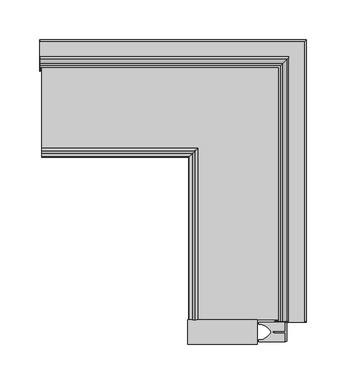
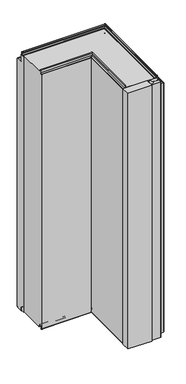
"""IFC4 building model written with IfcOpenShell, lengths in millimetres: plate geometry, Угловой модуль Fronttop : Угловой модуль Fronttop 150/1000."""

from ifc_helpers import new_model, si_unit, point, frame, frame_2d, origin, origin_with_axes, place, context, project, spatial, polyline, circle_curve, ellipse_curve, trimmed, segment, composite_curve, outline, extrude, source, transform, mapped, element, save
from ifc_brep_helpers import plane_surface, cylinder_surface, revolved_surface, advanced_brep


def plate_d7af983f(model_context):
    return source(origin(), model_context, "Body", "SolidModel", [
        extrude(outline(polyline([(150.0, -208.4948846), (150.0, -231.5051154), (148.5, -231.5051154), (148.5, -220.6502496), (134.0759655, -220.6502496), (134.0759655, -219.35), (148.5, -219.35), (148.5, -208.4948846), (150.0, -208.4948846)])), origin_with_axes(), (0.0, 0.0, 1.0), 1000.0),
        extrude(outline(composite_curve([segment(polyline([(148.5, -207.4998455), (148.5, -219.25), (132.5, -219.25), (132.5, -220.75), (148.5, -220.75), (148.5, -232.5001545), (115.0, -232.5001545), (115.0, -229.75), (117.5, -229.75)]), True, "CONTINUOUS"), segment(trimmed(circle_curve(frame_2d((114.3183984, -211.9661979)), 18.0661619), [point((117.5, -229.75))], [point((130.5, -220.0))], True, "CARTESIAN"), True, "CONTINUOUS"), segment(trimmed(circle_curve(frame_2d((114.3183984, -228.0338021)), 18.0661619), [point((130.5, -220.0))], [point((117.5, -210.25))], True, "CARTESIAN"), True, "CONTINUOUS"), segment(polyline([(117.5, -210.25), (115.0, -210.25), (115.0, -207.4998455), (148.5, -207.4998455)]), True, "CONTINUOUS")], self_intersect=False)), origin_with_axes(), (0.0, 0.0, 1.0), 1000.0),
        extrude(outline(polyline([(25.0, -235.5), (25.0, -204.5), (113.0, -204.5), (113.0, -235.5), (25.0, -235.5)])), origin_with_axes(), (0.0, 0.0, 1.0), 1000.0),
        advanced_brep(
        [(-161.5, 124.0, 1008.0), (-161.5, 121.0, 1008.0), (-161.5, 121.0, 1004.0), (-161.5, 117.0, 1000.0), (-161.5, 115.0, 1000.0), (-161.5, 115.0, 1001.0), (-161.5, 117.0, 1001.0), (-161.5, 120.0, 1004.0), (-161.5, 120.0, 1008.0), (-161.5, 125.0, 1008.0), (-161.5, 125.0, 1000.0), (-161.5, 124.0, 1000.0), (-161.5, 115.0, 2.0), (140.0, 115.0, 2.0), (140.0, 115.0, 3.0), (-161.5, 115.0, 3.0), (140.0, -206.5, 3.0), (142.0, -206.5, 3.0), (142.0, 117.0, 3.0), (-161.5, 117.0, 3.0), (143.0, 118.0, 4.0), (-161.5, 118.0, 4.0), (143.0, 118.0, 8.0), (-161.5, 118.0, 8.0), (152.0, 127.0, 8.0), (-161.5, 127.0, 8.0), (152.0, 127.0, 0.0), (-161.5, 127.0, 0.0), (154.0, 129.0, -2.0), (-161.5, 129.0, -2.0), (154.0, -206.5, -2.0), (172.0, -206.5, -2.0), (172.0, 147.0, -2.0), (-161.5, 147.0, -2.0), (174.0, 149.0, 0.0), (-161.5, 149.0, 0.0), (174.0, 149.0, 969.0), (-161.5, 149.0, 969.0), (172.0, 147.0, 971.0), (-161.5, 147.0, 971.0), (172.0, -206.5, 971.0), (153.0, -206.5, 971.0), (153.0, 128.0, 971.0), (-161.5, 128.0, 971.0), (149.0, 124.0, 975.0), (-161.5, 124.0, 975.0), (149.0, 124.0, 1008.0), (146.0, 121.0, 1008.0), (146.0, 121.0, 1004.0), (142.0, 117.0, 1000.0), (142.0, -206.5, 1000.0), (140.0, -206.5, 1000.0), (140.0, 115.0, 1000.0), (140.0, 115.0, 1001.0), (140.0, -206.5, 1001.0), (142.0, -206.5, 1001.0), (142.0, 117.0, 1001.0), (145.0, 120.0, 1004.0), (145.0, 120.0, 1008.0), (150.0, 125.0, 1008.0), (150.0, 125.0, 975.0), (-161.5, 125.0, 975.0), (-162.5, 125.0, 975.0), (-162.5, 125.0, 1000.0), (153.0, 128.0, 972.0), (-161.5, 128.0, 972.0), (153.0, -206.5, 972.0), (153.0, -207.5, 972.0), (172.0, -207.5, 972.0), (172.0, -206.5, 972.0), (172.0, 147.0, 972.0), (-161.5, 147.0, 972.0), (-162.5, 147.0, 972.0), (-162.5, 128.0, 972.0), (175.0, 150.0, 969.0), (-161.5, 150.0, 969.0), (175.0, 150.0, 0.0), (-161.5, 150.0, 0.0), (-162.5, 150.0, 0.0), (-162.5, 150.0, 969.0), (172.0, 147.0, -3.0), (-161.5, 147.0, -3.0), (172.0, -206.5, -3.0), (172.0, -207.5, -3.0), (150.0, -207.5, -3.0), (150.0, -206.5, -3.0), (154.0, -206.5, -3.0), (154.0, 129.0, -3.0), (-161.5, 129.0, -3.0), (-161.5, 125.0, -3.0), (-162.5, 125.0, -3.0), (-162.5, 147.0, -3.0), (151.0, 126.0, 0.0), (-161.5, 126.0, 0.0), (151.0, 126.0, 8.0), (-161.5, 126.0, 8.0), (144.0, 119.0, 8.0), (-161.5, 119.0, 8.0), (144.0, 119.0, 4.0), (-161.5, 119.0, 4.0), (142.0, 117.0, 2.0), (-161.5, 117.0, 2.0), (142.0, -206.5, 2.0), (140.0, -206.5, 2.0), (146.0, -206.5, 1004.0), (146.0, -206.5, 1008.0), (149.0, -206.5, 1008.0), (149.0, -206.5, 1000.0), (150.0, -206.5, 1000.0), (150.0, -206.5, 1008.0), (145.0, -206.5, 1008.0), (145.0, -206.5, 1004.0), (143.0, -206.5, 4.0), (143.0, -206.5, 8.0), (152.0, -206.5, 8.0), (152.0, -206.5, 0.0), (174.0, -206.5, 0.0), (174.0, -206.5, 969.0), (149.0, -206.5, 975.0), (150.0, -207.5, 1000.0), (150.0, -207.5, 975.0), (150.0, -206.5, 975.0), (175.0, -206.5, 969.0), (175.0, -207.5, 969.0), (175.0, -207.5, 0.0), (175.0, -206.5, 0.0), (151.0, -206.5, 0.0), (151.0, -206.5, 8.0), (144.0, -206.5, 8.0), (144.0, -206.5, 4.0), (-161.5, 110.0, 1000.0), (-161.5, 110.0, 0.0), (-161.5, 125.0, 0.0), (-162.5, 125.0, 0.0), (-162.5, 110.0, 0.0), (-162.5, 110.0, 1000.0), (135.0, -206.5, 0.0), (135.0, -206.5, 1000.0), (150.0, -206.5, 0.0), (135.0, -207.5, 0.0), (150.0, -207.5, 0.0), (135.0, -207.5, 1000.0)],
        [
            (0, 1, circle_curve(frame((-161.5, 122.5, 1008.0), z_axis=(1.0, 0.0, 0.0), x_axis=(0.0, -1.0, 0.0)), 1.5)),
            (1, 2),
            (2, 3, circle_curve(frame((-161.5, 117.0, 1004.0), z_axis=(-1.0, 0.0, 0.0), x_axis=(0.0, -1.0, 0.0)), 4.0)),
            (3, 4),
            (4, 5),
            (5, 6),
            (6, 7, circle_curve(frame((-161.5, 117.0, 1004.0), z_axis=(1.0, 0.0, 0.0), x_axis=(0.0, -1.0, 0.0)), 3.0)),
            (7, 8),
            (8, 9, circle_curve(frame((-161.5, 122.5, 1008.0), z_axis=(-1.0, 0.0, 0.0), x_axis=(0.0, -1.0, 0.0)), 2.5)),
            (9, 10),
            (10, 11),
            (11, 0),
            (12, 13),
            (13, 14),
            (14, 15),
            (15, 12),
            (14, 16),
            (16, 17),
            (17, 18),
            (18, 19),
            (19, 15),
            (18, 20, ellipse_curve(frame((142.0, 117.0, 4.0), z_axis=(0.7071067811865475, -0.7071067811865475, 0.0), x_axis=(0.7071067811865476, 0.7071067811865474, 0.0)), 1.4142136, 1.0)),
            (20, 21),
            (21, 19, circle_curve(frame((-161.5, 117.0, 4.0), z_axis=(-1.0, 0.0, 0.0), x_axis=(0.0, -1.0, 0.0)), 1.0)),
            (20, 22),
            (22, 23),
            (23, 21),
            (22, 24, ellipse_curve(frame((147.5, 122.5, 8.0), z_axis=(-0.7071067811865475, 0.7071067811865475, 0.0), x_axis=(-0.7071067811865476, -0.7071067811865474, 0.0)), 6.363961, 4.5)),
            (24, 25),
            (25, 23, circle_curve(frame((-161.5, 122.5, 8.0), z_axis=(1.0, 0.0, 0.0), x_axis=(0.0, -1.0, 0.0)), 4.5)),
            (24, 26),
            (26, 27),
            (27, 25),
            (26, 28, ellipse_curve(frame((154.0, 129.0, 0.0), z_axis=(0.7071067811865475, -0.7071067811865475, 0.0), x_axis=(0.7071067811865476, 0.7071067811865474, 0.0)), 2.8284271, 2.0)),
            (28, 29),
            (29, 27, circle_curve(frame((-161.5, 129.0, 0.0), z_axis=(-1.0, 0.0, 0.0), x_axis=(0.0, -1.0, 0.0)), 2.0)),
            (28, 30),
            (30, 31),
            (31, 32),
            (32, 33),
            (33, 29),
            (32, 34, ellipse_curve(frame((172.0, 147.0, 0.0), z_axis=(0.7071067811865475, -0.7071067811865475, 0.0), x_axis=(0.7071067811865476, 0.7071067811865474, 0.0)), 2.8284271, 2.0)),
            (34, 35),
            (35, 33, circle_curve(frame((-161.5, 147.0, 0.0), z_axis=(-1.0, 0.0, 0.0), x_axis=(0.0, -1.0, 0.0)), 2.0)),
            (34, 36),
            (36, 37),
            (37, 35),
            (36, 38, ellipse_curve(frame((172.0, 147.0, 969.0), z_axis=(0.7071067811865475, -0.7071067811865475, 0.0), x_axis=(0.7071067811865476, 0.7071067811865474, 0.0)), 2.8284271, 2.0)),
            (38, 39),
            (39, 37, circle_curve(frame((-161.5, 147.0, 969.0), z_axis=(-1.0, 0.0, 0.0), x_axis=(0.0, -1.0, 0.0)), 2.0)),
            (38, 40),
            (40, 41),
            (41, 42),
            (42, 43),
            (43, 39),
            (42, 44, ellipse_curve(frame((153.0, 128.0, 975.0), z_axis=(-0.7071067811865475, 0.7071067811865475, 0.0), x_axis=(-0.7071067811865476, -0.7071067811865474, 0.0)), 5.6568542, 4.0)),
            (44, 45),
            (45, 43, circle_curve(frame((-161.5, 128.0, 975.0), z_axis=(1.0, 0.0, 0.0), x_axis=(0.0, -1.0, 0.0)), 4.0)),
            (44, 46),
            (46, 0),
            (11, 45),
            (46, 47, ellipse_curve(frame((147.5, 122.5, 1008.0), z_axis=(0.7071067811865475, -0.7071067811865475, 0.0), x_axis=(0.7071067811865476, 0.7071067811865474, 0.0)), 2.1213203, 1.5)),
            (47, 1),
            (47, 48),
            (48, 2),
            (48, 49, ellipse_curve(frame((142.0, 117.0, 1004.0), z_axis=(-0.7071067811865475, 0.7071067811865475, 0.0), x_axis=(-0.7071067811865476, -0.7071067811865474, 0.0)), 5.6568542, 4.0)),
            (49, 3),
            (49, 50),
            (50, 51),
            (51, 52),
            (52, 4),
            (4, 3),
            (52, 53),
            (53, 5),
            (53, 54),
            (54, 55),
            (55, 56),
            (56, 6),
            (56, 57, ellipse_curve(frame((142.0, 117.0, 1004.0), z_axis=(0.7071067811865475, -0.7071067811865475, 0.0), x_axis=(0.7071067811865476, 0.7071067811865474, 0.0)), 4.2426407, 3.0)),
            (57, 7),
            (57, 58),
            (58, 8),
            (58, 59, ellipse_curve(frame((147.5, 122.5, 1008.0), z_axis=(-0.7071067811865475, 0.7071067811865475, 0.0), x_axis=(-0.7071067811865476, -0.7071067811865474, 0.0)), 3.5355339, 2.5)),
            (59, 9),
            (59, 60),
            (60, 61),
            (61, 62),
            (62, 63),
            (63, 10),
            (60, 64, ellipse_curve(frame((153.0, 128.0, 975.0), z_axis=(0.7071067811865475, -0.7071067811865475, 0.0), x_axis=(0.7071067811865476, 0.7071067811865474, 0.0)), 4.2426407, 3.0)),
            (64, 65),
            (65, 61, circle_curve(frame((-161.5, 128.0, 975.0), z_axis=(-1.0, 0.0, 0.0), x_axis=(0.0, -1.0, 0.0)), 3.0)),
            (64, 66),
            (66, 67),
            (67, 68),
            (68, 69),
            (69, 70),
            (70, 71),
            (71, 72),
            (72, 73),
            (73, 65),
            (70, 74, ellipse_curve(frame((172.0, 147.0, 969.0), z_axis=(-0.7071067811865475, 0.7071067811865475, 0.0), x_axis=(-0.7071067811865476, -0.7071067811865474, 0.0)), 4.2426407, 3.0)),
            (74, 75),
            (75, 71, circle_curve(frame((-161.5, 147.0, 969.0), z_axis=(1.0, 0.0, 0.0), x_axis=(0.0, -1.0, 0.0)), 3.0)),
            (74, 76),
            (76, 77),
            (77, 78),
            (78, 79),
            (79, 75),
            (76, 80, ellipse_curve(frame((172.0, 147.0, 0.0), z_axis=(-0.7071067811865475, 0.7071067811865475, 0.0), x_axis=(-0.7071067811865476, -0.7071067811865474, 0.0)), 4.2426407, 3.0)),
            (80, 81),
            (81, 77, circle_curve(frame((-161.5, 147.0, 0.0), z_axis=(1.0, 0.0, 0.0), x_axis=(0.0, -1.0, 0.0)), 3.0)),
            (80, 82),
            (82, 83),
            (83, 84),
            (84, 85),
            (85, 86),
            (86, 87),
            (87, 88),
            (88, 89),
            (89, 90),
            (90, 91),
            (91, 81),
            (87, 92, ellipse_curve(frame((154.0, 129.0, 0.0), z_axis=(-0.7071067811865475, 0.7071067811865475, 0.0), x_axis=(-0.7071067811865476, -0.7071067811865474, 0.0)), 4.2426407, 3.0)),
            (92, 93),
            (93, 88, circle_curve(frame((-161.5, 129.0, 0.0), z_axis=(1.0, 0.0, 0.0), x_axis=(0.0, -1.0, 0.0)), 3.0)),
            (92, 94),
            (94, 95),
            (95, 93),
            (94, 96, ellipse_curve(frame((147.5, 122.5, 8.0), z_axis=(0.7071067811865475, -0.7071067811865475, 0.0), x_axis=(0.7071067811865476, 0.7071067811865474, 0.0)), 4.9497475, 3.5)),
            (96, 97),
            (97, 95, circle_curve(frame((-161.5, 122.5, 8.0), z_axis=(-1.0, 0.0, 0.0), x_axis=(0.0, -1.0, 0.0)), 3.5)),
            (96, 98),
            (98, 99),
            (99, 97),
            (98, 100, ellipse_curve(frame((142.0, 117.0, 4.0), z_axis=(-0.7071067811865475, 0.7071067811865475, 0.0), x_axis=(-0.7071067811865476, -0.7071067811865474, 0.0)), 2.8284271, 2.0)),
            (100, 101),
            (101, 99, circle_curve(frame((-161.5, 117.0, 4.0), z_axis=(1.0, 0.0, 0.0), x_axis=(0.0, -1.0, 0.0)), 2.0)),
            (12, 101),
            (100, 102),
            (102, 103),
            (103, 13),
            (54, 51),
            (51, 50),
            (50, 104, circle_curve(frame((142.0, -206.5, 1004.0), z_axis=(0.0, -1.0, 0.0), x_axis=(-1.0, 0.0, 0.0)), 4.0)),
            (104, 105),
            (105, 106, circle_curve(frame((147.5, -206.5, 1008.0), z_axis=(0.0, 1.0, 0.0), x_axis=(-1.0, 0.0, 0.0)), 1.5)),
            (106, 107),
            (107, 108),
            (108, 109),
            (109, 110, circle_curve(frame((147.5, -206.5, 1008.0), z_axis=(0.0, -1.0, 0.0), x_axis=(-1.0, 0.0, 0.0)), 2.5)),
            (110, 111),
            (111, 55, circle_curve(frame((142.0, -206.5, 1004.0), z_axis=(0.0, 1.0, 0.0), x_axis=(-1.0, 0.0, 0.0)), 3.0)),
            (103, 16),
            (17, 112, circle_curve(frame((142.0, -206.5, 4.0), z_axis=(0.0, -1.0, 0.0), x_axis=(-1.0, 0.0, 0.0)), 1.0)),
            (112, 20),
            (112, 113),
            (113, 22),
            (113, 114, circle_curve(frame((147.5, -206.5, 8.0), z_axis=(0.0, 1.0, 0.0), x_axis=(-1.0, 0.0, 0.0)), 4.5)),
            (114, 24),
            (114, 115),
            (115, 26),
            (115, 30, circle_curve(frame((154.0, -206.5, 0.0), z_axis=(0.0, -1.0, 0.0), x_axis=(-1.0, 0.0, 0.0)), 2.0)),
            (31, 116, circle_curve(frame((172.0, -206.5, 0.0), z_axis=(0.0, -1.0, 0.0), x_axis=(-1.0, 0.0, 0.0)), 2.0)),
            (116, 34),
            (116, 117),
            (117, 36),
            (117, 40, circle_curve(frame((172.0, -206.5, 969.0), z_axis=(0.0, -1.0, 0.0), x_axis=(-1.0, 0.0, 0.0)), 2.0)),
            (41, 118, circle_curve(frame((153.0, -206.5, 975.0), z_axis=(0.0, 1.0, 0.0), x_axis=(-1.0, 0.0, 0.0)), 4.0)),
            (118, 44),
            (118, 107),
            (106, 46),
            (105, 47),
            (104, 48),
            (111, 57),
            (110, 58),
            (109, 59),
            (108, 119),
            (119, 120),
            (120, 121),
            (121, 60),
            (121, 66, circle_curve(frame((153.0, -206.5, 975.0), z_axis=(0.0, -1.0, 0.0), x_axis=(-1.0, 0.0, 0.0)), 3.0)),
            (69, 122, circle_curve(frame((172.0, -206.5, 969.0), z_axis=(0.0, 1.0, 0.0), x_axis=(-1.0, 0.0, 0.0)), 3.0)),
            (122, 74),
            (122, 123),
            (123, 124),
            (124, 125),
            (125, 76),
            (125, 82, circle_curve(frame((172.0, -206.5, 0.0), z_axis=(0.0, 1.0, 0.0), x_axis=(-1.0, 0.0, 0.0)), 3.0)),
            (86, 126, circle_curve(frame((154.0, -206.5, 0.0), z_axis=(0.0, 1.0, 0.0), x_axis=(-1.0, 0.0, 0.0)), 3.0)),
            (126, 92),
            (126, 127),
            (127, 94),
            (127, 128, circle_curve(frame((147.5, -206.5, 8.0), z_axis=(0.0, -1.0, 0.0), x_axis=(-1.0, 0.0, 0.0)), 3.5)),
            (128, 96),
            (128, 129),
            (129, 98),
            (129, 102, circle_curve(frame((142.0, -206.5, 4.0), z_axis=(0.0, 1.0, 0.0), x_axis=(-1.0, 0.0, 0.0)), 2.0)),
            (130, 131),
            (131, 132),
            (132, 89),
            (11, 3),
            (4, 130),
            (62, 73, circle_curve(frame((-162.5, 128.0, 975.0), z_axis=(1.0, 0.0, 0.0), x_axis=(0.0, 1.0, 0.0)), 3.0)),
            (72, 79, circle_curve(frame((-162.5, 147.0, 969.0), z_axis=(-1.0, 0.0, 0.0), x_axis=(0.0, 1.0, 0.0)), 3.0)),
            (78, 91, circle_curve(frame((-162.5, 147.0, 0.0), z_axis=(-1.0, 0.0, 0.0), x_axis=(0.0, 1.0, 0.0)), 3.0)),
            (90, 133),
            (133, 134),
            (134, 135),
            (135, 63),
            (135, 130),
            (134, 131),
            (133, 132),
            (136, 137),
            (137, 51),
            (50, 107),
            (85, 138),
            (138, 136),
            (139, 140),
            (140, 84),
            (83, 124, circle_curve(frame((172.0, -207.5, 0.0), z_axis=(0.0, -1.0, 0.0), x_axis=(-1.0, 0.0, 0.0)), 3.0)),
            (123, 68, circle_curve(frame((172.0, -207.5, 969.0), z_axis=(0.0, -1.0, 0.0), x_axis=(-1.0, 0.0, 0.0)), 3.0)),
            (67, 120, circle_curve(frame((153.0, -207.5, 975.0), z_axis=(0.0, 1.0, 0.0), x_axis=(-1.0, 0.0, 0.0)), 3.0)),
            (119, 141),
            (141, 139),
            (138, 140),
            (139, 136),
            (137, 141),
        ],
        [
            plane_surface(frame((-161.5, 0.0, 0.0), z_axis=(-1.0, 0.0, 0.0), x_axis=(0.0, 0.0, 1.0))),
            plane_surface(frame((-161.5, 115.0, 2.0), z_axis=(0.0, -1.0, 0.0), x_axis=(1.0, 0.0, 0.0))),
            plane_surface(frame((-161.5, 115.0, 3.0), z_axis=(0.0, 0.0, 1.0), x_axis=(1.0, 0.0, 0.0))),
            revolved_surface(polyline([(143.00000002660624, 116.0, 4.0), (-161.5, 116.0, 4.0)]), (-161.5, 117.0, 4.0), (1.0, 0.0, 0.0)),
            plane_surface(frame((-161.5, 118.0, 4.0), z_axis=(0.0, -1.0, 0.0), x_axis=(1.0, 0.0, 0.0))),
            cylinder_surface(frame((-161.5, 122.5, 8.0), z_axis=(-1.0, 0.0, 0.0), x_axis=(0.0, -1.0, 0.0)), 4.5),
            plane_surface(frame((-161.5, 127.0, 8.0), z_axis=(0.0, 1.0, 0.0), x_axis=(1.0, 0.0, 0.0))),
            revolved_surface(polyline([(155.99999998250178, 127.0, 0.0), (-161.5, 127.0, 0.0)]), (-161.5, 129.0, 0.0), (1.0, 0.0, 0.0)),
            plane_surface(frame((-161.5, 129.0, -2.0), z_axis=(0.0, 0.0, 1.0), x_axis=(1.0, 0.0, 0.0))),
            revolved_surface(polyline([(174.0, 145.0, 0.0), (-161.5, 145.0, 0.0)]), (-161.5, 147.0, 0.0), (1.0, 0.0, 0.0)),
            plane_surface(frame((-161.5, 149.0, 0.0), z_axis=(0.0, -1.0, 0.0), x_axis=(1.0, 0.0, 0.0))),
            revolved_surface(polyline([(174.0, 145.0, 969.0), (-161.5, 145.0, 969.0)]), (-161.5, 147.0, 969.0), (1.0, 0.0, 0.0)),
            plane_surface(frame((-161.5, 147.0, 971.0), z_axis=(0.0, 0.0, -1.0), x_axis=(1.0, 0.0, 0.0))),
            cylinder_surface(frame((-161.5, 128.0, 975.0), z_axis=(-1.0, 0.0, 0.0), x_axis=(0.0, -1.0, 0.0)), 4.0),
            plane_surface(frame((-161.5, 124.0, 975.0), z_axis=(0.0, -1.0, 0.0), x_axis=(1.0, 0.0, 0.0))),
            revolved_surface(polyline([(149.0, 121.0, 1008.0), (-161.5, 121.0, 1008.0)]), (-161.5, 122.5, 1008.0), (1.0, 0.0, 0.0)),
            plane_surface(frame((-161.5, 121.0, 1008.0), z_axis=(0.0, 1.0, 0.0), x_axis=(1.0, 0.0, 0.0))),
            cylinder_surface(frame((-161.5, 117.0, 1004.0), z_axis=(-1.0, 0.0, 0.0), x_axis=(0.0, -1.0, 0.0)), 4.0),
            plane_surface(frame((-161.5, 117.0, 1000.0), z_axis=(0.0, 0.0, -1.0), x_axis=(1.0, 0.0, 0.0))),
            plane_surface(frame((-161.5, 115.0, 1000.0), z_axis=(0.0, -1.0, 0.0), x_axis=(1.0, 0.0, 0.0))),
            plane_surface(frame((-161.5, 115.0, 1001.0), z_axis=(0.0, 0.0, 1.0), x_axis=(1.0, 0.0, 0.0))),
            revolved_surface(polyline([(145.00000000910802, 114.0, 1004.0), (-161.5, 114.0, 1004.0)]), (-161.5, 117.0, 1004.0), (1.0, 0.0, 0.0)),
            plane_surface(frame((-161.5, 120.0, 1004.0), z_axis=(0.0, -1.0, 0.0), x_axis=(1.0, 0.0, 0.0))),
            cylinder_surface(frame((-161.5, 122.5, 1008.0), z_axis=(-1.0, 0.0, 0.0), x_axis=(0.0, -1.0, 0.0)), 2.5),
            plane_surface(frame((-161.5, 125.0, 1008.0), z_axis=(0.0, 1.0, 0.0), x_axis=(1.0, 0.0, 0.0))),
            revolved_surface(polyline([(156.00000000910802, 125.0, 975.0), (-161.5, 125.0, 975.0)]), (-161.5, 128.0, 975.0), (1.0, 0.0, 0.0)),
            plane_surface(frame((-161.5, 128.0, 972.0), z_axis=(0.0, 0.0, 1.0), x_axis=(1.0, 0.0, 0.0))),
            cylinder_surface(frame((-161.5, 147.0, 969.0), z_axis=(-1.0, 0.0, 0.0), x_axis=(0.0, -1.0, 0.0)), 3.0),
            plane_surface(frame((-161.5, 150.0, 969.0), z_axis=(0.0, 1.0, 0.0), x_axis=(1.0, 0.0, 0.0))),
            cylinder_surface(frame((-161.5, 147.0, 0.0), z_axis=(-1.0, 0.0, 0.0), x_axis=(0.0, -1.0, 0.0)), 3.0),
            plane_surface(frame((-161.5, 147.0, -3.0), z_axis=(0.0, 0.0, -1.0), x_axis=(1.0, 0.0, 0.0))),
            cylinder_surface(frame((-161.5, 129.0, 0.0), z_axis=(-1.0, 0.0, 0.0), x_axis=(0.0, -1.0, 0.0)), 3.0),
            plane_surface(frame((-161.5, 126.0, 0.0), z_axis=(0.0, -1.0, 0.0), x_axis=(1.0, 0.0, 0.0))),
            revolved_surface(polyline([(151.00000002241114, 119.0, 8.0), (-161.5, 119.0, 8.0)]), (-161.5, 122.5, 8.0), (1.0, 0.0, 0.0)),
            plane_surface(frame((-161.5, 119.0, 8.0), z_axis=(0.0, 1.0, 0.0), x_axis=(1.0, 0.0, 0.0))),
            cylinder_surface(frame((-161.5, 117.0, 4.0), z_axis=(-1.0, 0.0, 0.0), x_axis=(0.0, -1.0, 0.0)), 2.0),
            plane_surface(frame((-161.5, 117.0, 2.0), z_axis=(0.0, 0.0, -1.0), x_axis=(1.0, 0.0, 0.0))),
            plane_surface(frame((25.0, -206.5, 0.0), z_axis=(0.0, -1.0, 0.0), x_axis=(0.0, 0.0, 1.0))),
            plane_surface(frame((140.0, 115.0, 2.0), z_axis=(-1.0, 0.0, 0.0), x_axis=(0.0, -1.0, 0.0))),
            revolved_surface(polyline([(141.0, -206.5, 4.0), (141.0, 118.00000002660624, 4.0)]), (142.0, 0.0, 4.0), (0.0, -1.0, 0.0)),
            plane_surface(frame((143.0, 118.0, 4.0), z_axis=(-1.0, 0.0, 0.0), x_axis=(0.0, -1.0, 0.0))),
            cylinder_surface(frame((147.5, 0.0, 8.0), z_axis=(0.0, 1.0, 0.0), x_axis=(-1.0, 0.0, 0.0)), 4.5),
            plane_surface(frame((152.0, 127.0, 8.0), z_axis=(1.0, 0.0, 0.0), x_axis=(0.0, -1.0, 0.0))),
            revolved_surface(polyline([(152.0, -206.5, 0.0), (152.0, 130.9999999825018, 0.0)]), (154.0, 0.0, 0.0), (0.0, -1.0, 0.0)),
            revolved_surface(polyline([(170.0, -206.5, 0.0), (170.0, 149.0, 0.0)]), (172.0, 0.0, 0.0), (0.0, -1.0, 0.0)),
            plane_surface(frame((174.0, 149.0, 0.0), z_axis=(-1.0, 0.0, 0.0), x_axis=(0.0, -1.0, 0.0))),
            revolved_surface(polyline([(170.0, -206.5, 969.0), (170.0, 149.0, 969.0)]), (172.0, 0.0, 969.0), (0.0, -1.0, 0.0)),
            cylinder_surface(frame((153.0, 0.0, 975.0), z_axis=(0.0, 1.0, 0.0), x_axis=(-1.0, 0.0, 0.0)), 4.0),
            plane_surface(frame((149.0, 124.0, 975.0), z_axis=(-1.0, 0.0, 0.0), x_axis=(0.0, -1.0, 0.0))),
            revolved_surface(polyline([(146.0, -206.5, 1008.0), (146.0, 124.0, 1008.0)]), (147.5, 0.0, 1008.0), (0.0, -1.0, 0.0)),
            plane_surface(frame((146.0, 121.0, 1008.0), z_axis=(1.0, 0.0, 0.0), x_axis=(0.0, -1.0, 0.0))),
            cylinder_surface(frame((142.0, 0.0, 1004.0), z_axis=(0.0, 1.0, 0.0), x_axis=(-1.0, 0.0, 0.0)), 4.0),
            plane_surface(frame((140.0, 115.0, 1000.0), z_axis=(-1.0, 0.0, 0.0), x_axis=(0.0, -1.0, 0.0))),
            revolved_surface(polyline([(139.0, -206.5, 1004.0), (139.0, 120.00000000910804, 1004.0)]), (142.0, 0.0, 1004.0), (0.0, -1.0, 0.0)),
            plane_surface(frame((145.0, 120.0, 1004.0), z_axis=(-1.0, 0.0, 0.0), x_axis=(0.0, -1.0, 0.0))),
            cylinder_surface(frame((147.5, 0.0, 1008.0), z_axis=(0.0, 1.0, 0.0), x_axis=(-1.0, 0.0, 0.0)), 2.5),
            plane_surface(frame((150.0, 125.0, 1008.0), z_axis=(1.0, 0.0, 0.0), x_axis=(0.0, -1.0, 0.0))),
            revolved_surface(polyline([(150.0, -206.5, 975.0), (150.0, 131.00000000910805, 975.0)]), (153.0, 0.0, 975.0), (0.0, -1.0, 0.0)),
            cylinder_surface(frame((172.0, 0.0, 969.0), z_axis=(0.0, 1.0, 0.0), x_axis=(-1.0, 0.0, 0.0)), 3.0),
            plane_surface(frame((175.0, 150.0, 969.0), z_axis=(1.0, 0.0, 0.0), x_axis=(0.0, -1.0, 0.0))),
            cylinder_surface(frame((172.0, 0.0, 0.0), z_axis=(0.0, 1.0, 0.0), x_axis=(-1.0, 0.0, 0.0)), 3.0),
            cylinder_surface(frame((154.0, 0.0, 0.0), z_axis=(0.0, 1.0, 0.0), x_axis=(-1.0, 0.0, 0.0)), 3.0),
            plane_surface(frame((151.0, 126.0, 0.0), z_axis=(-1.0, 0.0, 0.0), x_axis=(0.0, -1.0, 0.0))),
            revolved_surface(polyline([(144.0, -206.5, 8.0), (144.0, 126.00000002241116, 8.0)]), (147.5, 0.0, 8.0), (0.0, -1.0, 0.0)),
            plane_surface(frame((144.0, 119.0, 8.0), z_axis=(1.0, 0.0, 0.0), x_axis=(0.0, -1.0, 0.0))),
            cylinder_surface(frame((142.0, 0.0, 4.0), z_axis=(0.0, 1.0, 0.0), x_axis=(-1.0, 0.0, 0.0)), 2.0),
            plane_surface(frame((-161.5, 125.0, 1000.0), z_axis=(1.0, 0.0, 0.0), x_axis=(0.0, -1.0, 0.0))),
            plane_surface(frame((-162.5, 125.0, 1000.0), z_axis=(-1.0, 0.0, 0.0), x_axis=(0.0, 1.0, 0.0))),
            plane_surface(frame((-161.5, 125.0, 1000.0), z_axis=(0.0, 0.0, 1.0), x_axis=(-1.0, 0.0, 0.0))),
            plane_surface(frame((-161.5, 110.0, 1000.0), z_axis=(0.0, -1.0, 0.0), x_axis=(-1.0, 0.0, 0.0))),
            plane_surface(frame((-161.5, 110.0, 0.0), z_axis=(0.0, 0.0, -1.0), x_axis=(-1.0, 0.0, 0.0))),
            plane_surface(frame((-161.5, 125.0, 0.0), z_axis=(0.0, -1.0, 0.0), x_axis=(-1.0, 0.0, 0.0))),
            cylinder_surface(frame((-162.5, 147.0, 0.0), z_axis=(1.0, 0.0, 0.0), x_axis=(0.0, 1.0, 0.0)), 3.0),
            cylinder_surface(frame((-162.5, 147.0, 969.0), z_axis=(1.0, 0.0, 0.0), x_axis=(0.0, 1.0, 0.0)), 3.0),
            revolved_surface(polyline([(-162.5, 131.0, 975.0), (-161.5, 131.0, 975.0)]), (-162.5, 128.0, 975.0), (-1.0, 0.0, 0.0)),
            plane_surface(frame((135.0, -206.5, 1000.0), z_axis=(0.0, 1.0, 0.0), x_axis=(0.0, 0.0, 1.0))),
            plane_surface(frame((135.0, -207.5, 1000.0), z_axis=(0.0, -1.0, 0.0), x_axis=(0.0, 0.0, -1.0))),
            plane_surface(frame((150.0, -206.5, 0.0), z_axis=(0.0, 0.0, -1.0), x_axis=(0.0, -1.0, 0.0))),
            plane_surface(frame((150.0, -206.5, -3.0), z_axis=(-1.0, 0.0, 0.0), x_axis=(0.0, -1.0, 0.0))),
            cylinder_surface(frame((172.0, -207.5, 0.0), z_axis=(0.0, 1.0, 0.0), x_axis=(-1.0, 0.0, 0.0)), 3.0),
            cylinder_surface(frame((172.0, -207.5, 969.0), z_axis=(0.0, 1.0, 0.0), x_axis=(-1.0, 0.0, 0.0)), 3.0),
            revolved_surface(polyline([(150.0, -207.5, 975.0), (150.0, -206.5, 975.0)]), (153.0, -207.5, 975.0), (0.0, -1.0, 0.0)),
            plane_surface(frame((135.0, -206.5, 1000.0), z_axis=(0.0, 0.0, 1.0), x_axis=(0.0, -1.0, 0.0))),
            plane_surface(frame((135.0, -206.5, 0.0), z_axis=(-1.0, 0.0, 0.0), x_axis=(0.0, -1.0, 0.0))),
        ],
        [
            (0, [[1, 2, 3, 4, 5, 6, 7, 8, 9, 10, 11, 12]]),
            (1, [[13, 14, 15, 16]]),
            (2, [[-15, 17, 18, 19, 20, 21]]),
            (3, [[-20, 22, 23, 24]]),
            (4, [[-23, 25, 26, 27]]),
            (5, [[-26, 28, 29, 30]]),
            (6, [[-29, 31, 32, 33]]),
            (7, [[-32, 34, 35, 36]]),
            (8, [[-35, 37, 38, 39, 40, 41]]),
            (9, [[-40, 42, 43, 44]]),
            (10, [[-43, 45, 46, 47]]),
            (11, [[-46, 48, 49, 50]]),
            (12, [[-49, 51, 52, 53, 54, 55]]),
            (13, [[-54, 56, 57, 58]]),
            (14, [[-57, 59, 60, -12, 61]]),
            (15, [[-1, -60, 62, 63]]),
            (16, [[-2, -63, 64, 65]]),
            (17, [[-3, -65, 66, 67]]),
            (18, [[-67, 68, 69, 70, 71, 72]]),
            (19, [[-5, -71, 73, 74]]),
            (20, [[-6, -74, 75, 76, 77, 78]]),
            (21, [[-7, -78, 79, 80]]),
            (22, [[-8, -80, 81, 82]]),
            (23, [[-9, -82, 83, 84]]),
            (24, [[-84, 85, 86, 87, 88, 89, -10]]),
            (25, [[-86, 90, 91, 92]]),
            (26, [[-91, 93, 94, 95, 96, 97, 98, 99, 100, 101]]),
            (27, [[-98, 102, 103, 104]]),
            (28, [[-103, 105, 106, 107, 108, 109]]),
            (29, [[-106, 110, 111, 112]]),
            (30, [[-111, 113, 114, 115, 116, 117, 118, 119, 120, 121, 122, 123]]),
            (31, [[-119, 124, 125, 126]]),
            (32, [[-125, 127, 128, 129]]),
            (33, [[-128, 130, 131, 132]]),
            (34, [[-131, 133, 134, 135]]),
            (35, [[-134, 136, 137, 138]]),
            (36, [[-13, 139, -137, 140, 141, 142]]),
            (37, [[-76, 143, 144, 145, 146, 147, 148, 149, 150, 151, 152, 153]]),
            (38, [[-14, -142, 154, -17]]),
            (39, [[-19, 155, 156, -22]]),
            (40, [[-25, -156, 157, 158]]),
            (41, [[-28, -158, 159, 160]]),
            (42, [[-31, -160, 161, 162]]),
            (43, [[-34, -162, 163, -37]]),
            (44, [[-39, 164, 165, -42]]),
            (45, [[-45, -165, 166, 167]]),
            (46, [[-48, -167, 168, -51]]),
            (47, [[-53, 169, 170, -56]]),
            (48, [[-59, -170, 171, -148, 172]]),
            (49, [[-62, -172, -147, 173]]),
            (50, [[-64, -173, -146, 174]]),
            (51, [[-66, -174, -145, -68]]),
            (52, [[-70, -143, -75, -73]]),
            (53, [[-77, -153, 175, -79]]),
            (54, [[-81, -175, -152, 176]]),
            (55, [[-83, -176, -151, 177]]),
            (56, [[-85, -177, -150, 178, 179, 180, 181]]),
            (57, [[-90, -181, 182, -93]]),
            (58, [[-97, 183, 184, -102]]),
            (59, [[-105, -184, 185, 186, 187, 188]]),
            (60, [[-110, -188, 189, -113]]),
            (61, [[-118, 190, 191, -124]]),
            (62, [[-127, -191, 192, 193]]),
            (63, [[-130, -193, 194, 195]]),
            (64, [[-133, -195, 196, 197]]),
            (65, [[-136, -197, 198, -140]]),
            (66, [[199, 200, 201, -120, -126, -129, -132, -135, -138, -139, -16, -21, -24, -27, -30, -33, -36, -41, -44, -47, -50, -55, -58, -61, 202, -72, 203]]),
            (67, [[-88, 204, -100, 205, -108, 206, -122, 207, 208, 209, 210]]),
            (68, [[-210, 211, -203, -4, -202, -11, -89]]),
            (69, [[-199, -211, -209, 212]]),
            (70, [[-200, -212, -208, 213]]),
            (71, [[-201, -213, -207, -121]]),
            (72, [[-206, -107, -112, -123]]),
            (73, [[-205, -99, -104, -109]]),
            (74, [[-204, -87, -92, -101]]),
            (75, [[214, 215, -69, 216, -171, -169, -52, -168, -166, -164, -38, -163, -161, -159, -157, -155, -18, -154, -141, -198, -196, -194, -192, -190, -117, 217, 218]]),
            (76, [[219, 220, -115, 221, -186, 222, -95, 223, -179, 224, 225]]),
            (77, [[-218, 226, -219, 227]]),
            (78, [[-217, -116, -220, -226]]),
            (79, [[-221, -114, -189, -187]]),
            (80, [[-222, -185, -183, -96]]),
            (81, [[-223, -94, -182, -180]]),
            (82, [[-224, -178, -149, -216, -144, -215, 228]]),
            (83, [[-214, -227, -225, -228]]),
        ],
    ),
        advanced_brep(
        [(-159.5, 15.0, 3.0), (-159.5, 13.0, 3.0), (-159.5, 12.0, 4.0), (-159.5, 12.0, 8.0), (-159.5, 3.0, 8.0), (-159.5, 3.0, -0.5), (-159.5, 1.0, -0.5), (-159.5, 1.0, 995.0278643), (-159.5, 2.1111111, 996.0216723), (-159.5, 6.0, 999.5), (-159.5, 6.0, 1008.0), (-159.5, 9.0, 1008.0), (-159.5, 9.0, 1004.0), (-159.5, 13.0, 1000.0), (-159.5, 117.0, 1000.0), (-159.5, 121.0, 1004.0), (-159.5, 121.0, 1008.0), (-159.5, 124.0, 1008.0), (-159.5, 124.0, 975.0), (-159.5, 128.0, 971.0), (-159.5, 147.0, 971.0), (-159.5, 149.0, 969.0), (-159.5, 149.0, 0.0), (-159.5, 147.0, -2.0), (-159.5, 129.0, -2.0), (-159.5, 127.0, 0.0), (-159.5, 127.0, 8.0), (-159.5, 118.0, 8.0), (-159.5, 118.0, 4.0), (-159.5, 117.0, 3.0), (-159.5, 115.0, 3.0), (-159.5, 115.0, 0.0), (-159.5, 15.0, 0.0), (40.0, 15.0, 0.0), (40.0, 15.0, 3.0), (140.0, 115.0, 0.0), (140.0, -204.5, 0.0), (40.0, -204.5, 0.0), (140.0, 115.0, 3.0), (142.0, 117.0, 3.0), (142.0, -204.5, 3.0), (140.0, -204.5, 3.0), (143.0, 118.0, 4.0), (143.0, 118.0, 8.0), (152.0, 127.0, 8.0), (152.0, 127.0, 0.0), (154.0, 129.0, -2.0), (172.0, 147.0, -2.0), (172.0, -204.5, -2.0), (154.0, -204.5, -2.0), (174.0, 149.0, 0.0), (174.0, 149.0, 969.0), (172.0, 147.0, 971.0), (153.0, 128.0, 971.0), (153.0, -204.5, 971.0), (172.0, -204.5, 971.0), (149.0, 124.0, 975.0), (149.0, 124.0, 1008.0), (146.0, 121.0, 1008.0), (146.0, 121.0, 1004.0), (142.0, 117.0, 1000.0), (38.0, 13.0, 1000.0), (38.0, -204.5, 1000.0), (142.0, -204.5, 1000.0), (34.0, 9.0, 1004.0), (34.0, 9.0, 1008.0), (31.0, 6.0, 1008.0), (31.0, 6.0, 999.5), (27.1111111, 2.1111111, 996.021672), (26.0, 1.0, 995.0278643), (26.0, 1.0, -0.5), (28.0, 3.0, -0.5), (28.0, 3.0, 8.0), (37.0, 12.0, 8.0), (37.0, 12.0, 4.0), (38.0, 13.0, 3.0), (40.0, -204.5, 3.0), (38.0, -204.5, 3.0), (143.0, -204.5, 4.0), (143.0, -204.5, 8.0), (152.0, -204.5, 8.0), (152.0, -204.5, 0.0), (174.0, -204.5, 0.0), (174.0, -204.5, 969.0), (149.0, -204.5, 975.0), (149.0, -204.5, 1008.0), (146.0, -204.5, 1008.0), (146.0, -204.5, 1004.0), (34.0, -204.5, 1004.0), (34.0, -204.5, 1008.0), (31.0, -204.5, 1008.0), (31.0, -204.5, 999.5), (27.1111111, -204.5, 996.021672), (26.0, -204.5, 995.0278643), (26.0, -204.5, -0.5), (28.0, -204.5, -0.5), (28.0, -204.5, 8.0), (37.0, -204.5, 8.0), (37.0, -204.5, 4.0)],
        [
            (0, 1),
            (1, 2, circle_curve(frame((-159.5, 13.0, 4.0), z_axis=(-1.0, 0.0, 0.0), x_axis=(0.0, -1.0, 0.0)), 1.0)),
            (2, 3),
            (3, 4, circle_curve(frame((-159.5, 7.5, 8.0), z_axis=(1.0, 0.0, 0.0), x_axis=(0.0, -1.0, 0.0)), 4.5)),
            (4, 5),
            (5, 6, circle_curve(frame((-159.5, 2.0, -0.5), z_axis=(-1.0, 0.0, 0.0), x_axis=(0.0, -1.0, 0.0)), 1.0)),
            (6, 7),
            (7, 8, circle_curve(frame((-159.5, 2.0, 995.0278643), z_axis=(-1.0, 0.0, 0.0), x_axis=(0.0, -1.0, 0.0)), 1.0)),
            (8, 9, circle_curve(frame((-159.5, 2.5, 999.5), z_axis=(1.0, 0.0, 0.0), x_axis=(0.0, -1.0, 0.0)), 3.5)),
            (9, 10),
            (10, 11, circle_curve(frame((-159.5, 7.5, 1008.0), z_axis=(-1.0, 0.0, 0.0), x_axis=(0.0, -1.0, 0.0)), 1.5)),
            (11, 12),
            (12, 13, circle_curve(frame((-159.5, 13.0, 1004.0), z_axis=(1.0, 0.0, 0.0), x_axis=(0.0, -1.0, 0.0)), 4.0)),
            (13, 14),
            (14, 15, circle_curve(frame((-159.5, 117.0, 1004.0), z_axis=(1.0, 0.0, 0.0), x_axis=(0.0, -1.0, 0.0)), 4.0)),
            (15, 16),
            (16, 17, circle_curve(frame((-159.5, 122.5, 1008.0), z_axis=(-1.0, 0.0, 0.0), x_axis=(0.0, -1.0, 0.0)), 1.5)),
            (17, 18),
            (18, 19, circle_curve(frame((-159.5, 128.0, 975.0), z_axis=(1.0, 0.0, 0.0), x_axis=(0.0, -1.0, 0.0)), 4.0)),
            (19, 20),
            (20, 21, circle_curve(frame((-159.5, 147.0, 969.0), z_axis=(-1.0, 0.0, 0.0), x_axis=(0.0, -1.0, 0.0)), 2.0)),
            (21, 22),
            (22, 23, circle_curve(frame((-159.5, 147.0, 0.0), z_axis=(-1.0, 0.0, 0.0), x_axis=(0.0, -1.0, 0.0)), 2.0)),
            (23, 24),
            (24, 25, circle_curve(frame((-159.5, 129.0, 0.0), z_axis=(-1.0, 0.0, 0.0), x_axis=(0.0, -1.0, 0.0)), 2.0)),
            (25, 26),
            (26, 27, circle_curve(frame((-159.5, 122.5, 8.0), z_axis=(1.0, 0.0, 0.0), x_axis=(0.0, -1.0, 0.0)), 4.5)),
            (27, 28),
            (28, 29, circle_curve(frame((-159.5, 117.0, 4.0), z_axis=(-1.0, 0.0, 0.0), x_axis=(0.0, -1.0, 0.0)), 1.0)),
            (29, 30),
            (30, 31),
            (31, 32),
            (32, 0),
            (32, 33),
            (33, 34),
            (34, 0),
            (31, 35),
            (35, 36),
            (36, 37),
            (37, 33),
            (30, 38),
            (38, 35),
            (29, 39),
            (39, 40),
            (40, 41),
            (41, 38),
            (28, 42),
            (42, 39, ellipse_curve(frame((142.0, 117.0, 4.0), z_axis=(-0.7071067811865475, 0.7071067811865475, 0.0), x_axis=(-0.7071067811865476, -0.7071067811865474, 0.0)), 1.4142136, 1.0)),
            (27, 43),
            (43, 42),
            (26, 44),
            (44, 43, ellipse_curve(frame((147.5, 122.5, 8.0), z_axis=(0.7071067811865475, -0.7071067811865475, 0.0), x_axis=(0.7071067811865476, 0.7071067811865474, 0.0)), 6.363961, 4.5)),
            (25, 45),
            (45, 44),
            (24, 46),
            (46, 45, ellipse_curve(frame((154.0, 129.0, 0.0), z_axis=(-0.7071067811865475, 0.7071067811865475, 0.0), x_axis=(-0.7071067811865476, -0.7071067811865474, 0.0)), 2.8284271, 2.0)),
            (23, 47),
            (47, 48),
            (48, 49),
            (49, 46),
            (22, 50),
            (50, 47, ellipse_curve(frame((172.0, 147.0, 0.0), z_axis=(-0.7071067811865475, 0.7071067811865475, 0.0), x_axis=(-0.7071067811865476, -0.7071067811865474, 0.0)), 2.8284271, 2.0)),
            (21, 51),
            (51, 50),
            (20, 52),
            (52, 51, ellipse_curve(frame((172.0, 147.0, 969.0), z_axis=(-0.7071067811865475, 0.7071067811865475, 0.0), x_axis=(-0.7071067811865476, -0.7071067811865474, 0.0)), 2.8284271, 2.0)),
            (19, 53),
            (53, 54),
            (54, 55),
            (55, 52),
            (18, 56),
            (56, 53, ellipse_curve(frame((153.0, 128.0, 975.0), z_axis=(0.7071067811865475, -0.7071067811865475, 0.0), x_axis=(0.7071067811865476, 0.7071067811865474, 0.0)), 5.6568542, 4.0)),
            (17, 57),
            (57, 56),
            (16, 58),
            (58, 57, ellipse_curve(frame((147.5, 122.5, 1008.0), z_axis=(-0.7071067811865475, 0.7071067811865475, 0.0), x_axis=(-0.7071067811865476, -0.7071067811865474, 0.0)), 2.1213203, 1.5)),
            (15, 59),
            (59, 58),
            (14, 60),
            (60, 59, ellipse_curve(frame((142.0, 117.0, 1004.0), z_axis=(0.7071067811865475, -0.7071067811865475, 0.0), x_axis=(0.7071067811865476, 0.7071067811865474, 0.0)), 5.6568542, 4.0)),
            (13, 61),
            (61, 62),
            (62, 63),
            (63, 60),
            (12, 64),
            (64, 61, ellipse_curve(frame((38.0, 13.0, 1004.0), z_axis=(0.7071067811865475, -0.7071067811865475, 0.0), x_axis=(0.7071067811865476, 0.7071067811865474, 0.0)), 5.6568542, 4.0)),
            (11, 65),
            (65, 64),
            (10, 66),
            (66, 65, ellipse_curve(frame((32.5, 7.5, 1008.0), z_axis=(-0.7071067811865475, 0.7071067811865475, 0.0), x_axis=(-0.7071067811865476, -0.7071067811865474, 0.0)), 2.1213204, 1.5)),
            (9, 67),
            (67, 66),
            (8, 68),
            (68, 67, ellipse_curve(frame((27.5, 2.5, 999.5), z_axis=(0.7071067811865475, -0.7071067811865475, 0.0), x_axis=(0.7071067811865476, 0.7071067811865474, 0.0)), 4.9497475, 3.5)),
            (7, 69),
            (69, 68, ellipse_curve(frame((27.0, 2.0, 995.0278643), z_axis=(-0.7071067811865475, 0.7071067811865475, 0.0), x_axis=(-0.7071067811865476, -0.7071067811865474, 0.0)), 1.4142136, 1.0)),
            (6, 70),
            (70, 69),
            (5, 71),
            (71, 70, ellipse_curve(frame((27.0, 2.0, -0.5), z_axis=(-0.7071067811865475, 0.7071067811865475, 0.0), x_axis=(-0.7071067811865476, -0.7071067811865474, 0.0)), 1.4142136, 1.0)),
            (4, 72),
            (72, 71),
            (3, 73),
            (73, 72, ellipse_curve(frame((32.5, 7.5, 8.0), z_axis=(0.7071067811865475, -0.7071067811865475, 0.0), x_axis=(0.7071067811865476, 0.7071067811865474, 0.0)), 6.363961, 4.5)),
            (2, 74),
            (74, 73),
            (1, 75),
            (75, 74, ellipse_curve(frame((38.0, 13.0, 4.0), z_axis=(-0.7071067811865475, 0.7071067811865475, 0.0), x_axis=(-0.7071067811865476, -0.7071067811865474, 0.0)), 1.4142136, 1.0)),
            (34, 76),
            (76, 77),
            (77, 75),
            (76, 37),
            (36, 41),
            (40, 78, circle_curve(frame((142.0, -204.5, 4.0), z_axis=(0.0, -1.0, 0.0), x_axis=(-1.0, 0.0, 0.0)), 1.0)),
            (78, 79),
            (79, 80, circle_curve(frame((147.5, -204.5, 8.0), z_axis=(0.0, 1.0, 0.0), x_axis=(-1.0, 0.0, 0.0)), 4.5)),
            (80, 81),
            (81, 49, circle_curve(frame((154.0, -204.5, 0.0), z_axis=(0.0, -1.0, 0.0), x_axis=(-1.0, 0.0, 0.0)), 2.0)),
            (48, 82, circle_curve(frame((172.0, -204.5, 0.0), z_axis=(0.0, -1.0, 0.0), x_axis=(-1.0, 0.0, 0.0)), 2.0)),
            (82, 83),
            (83, 55, circle_curve(frame((172.0, -204.5, 969.0), z_axis=(0.0, -1.0, 0.0), x_axis=(-1.0, 0.0, 0.0)), 2.0)),
            (54, 84, circle_curve(frame((153.0, -204.5, 975.0), z_axis=(0.0, 1.0, 0.0), x_axis=(-1.0, 0.0, 0.0)), 4.0)),
            (84, 85),
            (85, 86, circle_curve(frame((147.5, -204.5, 1008.0), z_axis=(0.0, -1.0, 0.0), x_axis=(-1.0, 0.0, 0.0)), 1.5)),
            (86, 87),
            (87, 63, circle_curve(frame((142.0, -204.5, 1004.0), z_axis=(0.0, 1.0, 0.0), x_axis=(-1.0, 0.0, 0.0)), 4.0)),
            (62, 88, circle_curve(frame((38.0, -204.5, 1004.0), z_axis=(0.0, 1.0, 0.0), x_axis=(-1.0, 0.0, 0.0)), 4.0)),
            (88, 89),
            (89, 90, circle_curve(frame((32.5, -204.5, 1008.0), z_axis=(0.0, -1.0, 0.0), x_axis=(-1.0, 0.0, 0.0)), 1.5)),
            (90, 91),
            (91, 92, circle_curve(frame((27.5, -204.5, 999.5), z_axis=(0.0, 1.0, 0.0), x_axis=(-1.0, 0.0, 0.0)), 3.5)),
            (92, 93, circle_curve(frame((27.0, -204.5, 995.0278643), z_axis=(0.0, -1.0, 0.0), x_axis=(-1.0, 0.0, 0.0)), 1.0)),
            (93, 94),
            (94, 95, circle_curve(frame((27.0, -204.5, -0.5), z_axis=(0.0, -1.0, 0.0), x_axis=(-1.0, 0.0, 0.0)), 1.0)),
            (95, 96),
            (96, 97, circle_curve(frame((32.5, -204.5, 8.0), z_axis=(0.0, 1.0, 0.0), x_axis=(-1.0, 0.0, 0.0)), 4.5)),
            (97, 98),
            (98, 77, circle_curve(frame((38.0, -204.5, 4.0), z_axis=(0.0, -1.0, 0.0), x_axis=(-1.0, 0.0, 0.0)), 1.0)),
            (42, 78),
            (43, 79),
            (44, 80),
            (45, 81),
            (50, 82),
            (51, 83),
            (56, 84),
            (57, 85),
            (58, 86),
            (59, 87),
            (64, 88),
            (65, 89),
            (66, 90),
            (67, 91),
            (68, 92),
            (69, 93),
            (70, 94),
            (71, 95),
            (72, 96),
            (73, 97),
            (74, 98),
        ],
        [
            plane_surface(frame((-159.5, 0.0, 0.0), z_axis=(-1.0, 0.0, 0.0), x_axis=(0.0, 0.0, 1.0))),
            plane_surface(frame((-159.5, 15.0, 0.0), z_axis=(0.0, -1.0, 0.0), x_axis=(1.0, 0.0, 0.0))),
            plane_surface(frame((-159.5, 115.0, 0.0), z_axis=(0.0, 0.0, -1.0), x_axis=(1.0, 0.0, 0.0))),
            plane_surface(frame((-159.5, 115.0, 3.0), z_axis=(0.0, 1.0, 0.0), x_axis=(1.0, 0.0, 0.0))),
            plane_surface(frame((-159.5, 117.0, 3.0), z_axis=(0.0, 0.0, -1.0), x_axis=(1.0, 0.0, 0.0))),
            cylinder_surface(frame((-159.5, 117.0, 4.0), z_axis=(-1.0, 0.0, 0.0), x_axis=(0.0, -1.0, 0.0)), 1.0),
            plane_surface(frame((-159.5, 118.0, 8.0), z_axis=(0.0, 1.0, 0.0), x_axis=(1.0, 0.0, 0.0))),
            revolved_surface(polyline([(152.0, 118.0, 8.0), (-159.5, 118.0, 8.0)]), (-159.5, 122.5, 8.0), (1.0, 0.0, 0.0)),
            plane_surface(frame((-159.5, 127.0, 0.0), z_axis=(0.0, -1.0, 0.0), x_axis=(1.0, 0.0, 0.0))),
            cylinder_surface(frame((-159.5, 129.0, 0.0), z_axis=(-1.0, 0.0, 0.0), x_axis=(0.0, -1.0, 0.0)), 2.0),
            plane_surface(frame((-159.5, 147.0, -2.0), z_axis=(0.0, 0.0, -1.0), x_axis=(1.0, 0.0, 0.0))),
            cylinder_surface(frame((-159.5, 147.0, 0.0), z_axis=(-1.0, 0.0, 0.0), x_axis=(0.0, -1.0, 0.0)), 2.0),
            plane_surface(frame((-159.5, 149.0, 969.0), z_axis=(0.0, 1.0, 0.0), x_axis=(1.0, 0.0, 0.0))),
            cylinder_surface(frame((-159.5, 147.0, 969.0), z_axis=(-1.0, 0.0, 0.0), x_axis=(0.0, -1.0, 0.0)), 2.0),
            plane_surface(frame((-159.5, 128.0, 971.0), z_axis=(0.0, 0.0, 1.0), x_axis=(1.0, 0.0, 0.0))),
            revolved_surface(polyline([(156.9999999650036, 124.0, 975.0), (-159.5, 124.0, 975.0)]), (-159.5, 128.0, 975.0), (1.0, 0.0, 0.0)),
            plane_surface(frame((-159.5, 124.0, 1008.0), z_axis=(0.0, 1.0, 0.0), x_axis=(1.0, 0.0, 0.0))),
            cylinder_surface(frame((-159.5, 122.5, 1008.0), z_axis=(-1.0, 0.0, 0.0), x_axis=(0.0, -1.0, 0.0)), 1.5),
            plane_surface(frame((-159.5, 121.0, 1004.0), z_axis=(0.0, -1.0, 0.0), x_axis=(1.0, 0.0, 0.0))),
            revolved_surface(polyline([(146.0, 113.0, 1004.0), (-159.5, 113.0, 1004.0)]), (-159.5, 117.0, 1004.0), (1.0, 0.0, 0.0)),
            plane_surface(frame((-159.5, 13.0, 1000.0), z_axis=(0.0, 0.0, 1.0), x_axis=(1.0, 0.0, 0.0))),
            revolved_surface(polyline([(41.99999996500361, 9.0, 1004.0), (-159.5, 9.0, 1004.0)]), (-159.5, 13.0, 1004.0), (1.0, 0.0, 0.0)),
            plane_surface(frame((-159.5, 9.0, 1008.0), z_axis=(0.0, 1.0, 0.0), x_axis=(1.0, 0.0, 0.0))),
            cylinder_surface(frame((-159.5, 7.5, 1008.0), z_axis=(-1.0, 0.0, 0.0), x_axis=(0.0, -1.0, 0.0)), 1.5),
            plane_surface(frame((-159.5, 6.0, 999.5), z_axis=(0.0, -1.0, 0.0), x_axis=(1.0, 0.0, 0.0))),
            revolved_surface(polyline([(31.00000002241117, -1.0, 999.5), (-159.5, -1.0, 999.5)]), (-159.5, 2.5, 999.5), (1.0, 0.0, 0.0)),
            cylinder_surface(frame((-159.5, 2.0, 995.0278643), z_axis=(-1.0, 0.0, 0.0), x_axis=(0.0, -1.0, 0.0)), 1.0),
            plane_surface(frame((-159.5, 1.0, -0.5), z_axis=(0.0, -1.0, 0.0), x_axis=(1.0, 0.0, 0.0))),
            cylinder_surface(frame((-159.5, 2.0, -0.5), z_axis=(-1.0, 0.0, 0.0), x_axis=(0.0, -1.0, 0.0)), 1.0),
            plane_surface(frame((-159.5, 3.0, 8.0), z_axis=(0.0, 1.0, 0.0), x_axis=(1.0, 0.0, 0.0))),
            revolved_surface(polyline([(37.0, 3.0, 8.0), (-159.5, 3.0, 8.0)]), (-159.5, 7.5, 8.0), (1.0, 0.0, 0.0)),
            plane_surface(frame((-159.5, 12.0, 4.0), z_axis=(0.0, -1.0, 0.0), x_axis=(1.0, 0.0, 0.0))),
            cylinder_surface(frame((-159.5, 13.0, 4.0), z_axis=(-1.0, 0.0, 0.0), x_axis=(0.0, -1.0, 0.0)), 1.0),
            plane_surface(frame((-159.5, 15.0, 3.0), z_axis=(0.0, 0.0, -1.0), x_axis=(1.0, 0.0, 0.0))),
            plane_surface(frame((25.0, -204.5, 0.0), z_axis=(0.0, -1.0, 0.0), x_axis=(0.0, 0.0, 1.0))),
            plane_surface(frame((40.0, 15.0, 0.0), z_axis=(-1.0, 0.0, 0.0), x_axis=(0.0, -1.0, 0.0))),
            plane_surface(frame((140.0, 115.0, 3.0), z_axis=(1.0, 0.0, 0.0), x_axis=(0.0, -1.0, 0.0))),
            cylinder_surface(frame((142.0, 0.0, 4.0), z_axis=(0.0, 1.0, 0.0), x_axis=(-1.0, 0.0, 0.0)), 1.0),
            plane_surface(frame((143.0, 118.0, 8.0), z_axis=(1.0, 0.0, 0.0), x_axis=(0.0, -1.0, 0.0))),
            revolved_surface(polyline([(143.0, -204.5, 8.0), (143.0, 127.0, 8.0)]), (147.5, 0.0, 8.0), (0.0, -1.0, 0.0)),
            plane_surface(frame((152.0, 127.0, 0.0), z_axis=(-1.0, 0.0, 0.0), x_axis=(0.0, -1.0, 0.0))),
            cylinder_surface(frame((154.0, 0.0, 0.0), z_axis=(0.0, 1.0, 0.0), x_axis=(-1.0, 0.0, 0.0)), 2.0),
            cylinder_surface(frame((172.0, 0.0, 0.0), z_axis=(0.0, 1.0, 0.0), x_axis=(-1.0, 0.0, 0.0)), 2.0),
            plane_surface(frame((174.0, 149.0, 969.0), z_axis=(1.0, 0.0, 0.0), x_axis=(0.0, -1.0, 0.0))),
            cylinder_surface(frame((172.0, 0.0, 969.0), z_axis=(0.0, 1.0, 0.0), x_axis=(-1.0, 0.0, 0.0)), 2.0),
            revolved_surface(polyline([(149.0, -204.5, 975.0), (149.0, 131.9999999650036, 975.0)]), (153.0, 0.0, 975.0), (0.0, -1.0, 0.0)),
            plane_surface(frame((149.0, 124.0, 1008.0), z_axis=(1.0, 0.0, 0.0), x_axis=(0.0, -1.0, 0.0))),
            cylinder_surface(frame((147.5, 0.0, 1008.0), z_axis=(0.0, 1.0, 0.0), x_axis=(-1.0, 0.0, 0.0)), 1.5),
            plane_surface(frame((146.0, 121.0, 1004.0), z_axis=(-1.0, 0.0, 0.0), x_axis=(0.0, -1.0, 0.0))),
            revolved_surface(polyline([(138.0, -204.5, 1004.0), (138.0, 121.0, 1004.0)]), (142.0, 0.0, 1004.0), (0.0, -1.0, 0.0)),
            revolved_surface(polyline([(34.0, -204.5, 1004.0), (34.0, 16.999999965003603, 1004.0)]), (38.0, 0.0, 1004.0), (0.0, -1.0, 0.0)),
            plane_surface(frame((34.0, 9.0, 1008.0), z_axis=(1.0, 0.0, 0.0), x_axis=(0.0, -1.0, 0.0))),
            cylinder_surface(frame((32.5, 0.0, 1008.0), z_axis=(0.0, 1.0, 0.0), x_axis=(-1.0, 0.0, 0.0)), 1.5),
            plane_surface(frame((31.0, 6.0, 999.5), z_axis=(-1.0, 0.0, 0.0), x_axis=(0.0, -1.0, 0.0))),
            revolved_surface(polyline([(24.0, -204.5, 999.5), (24.0, 6.000000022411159, 999.5)]), (27.5, 0.0, 999.5), (0.0, -1.0, 0.0)),
            cylinder_surface(frame((27.0, 0.0, 995.0278643), z_axis=(0.0, 1.0, 0.0), x_axis=(-1.0, 0.0, 0.0)), 1.0),
            plane_surface(frame((26.0, 1.0, -0.5), z_axis=(-1.0, 0.0, 0.0), x_axis=(0.0, -1.0, 0.0))),
            cylinder_surface(frame((27.0, 0.0, -0.5), z_axis=(0.0, 1.0, 0.0), x_axis=(-1.0, 0.0, 0.0)), 1.0),
            plane_surface(frame((28.0, 3.0, 8.0), z_axis=(1.0, 0.0, 0.0), x_axis=(0.0, -1.0, 0.0))),
            revolved_surface(polyline([(28.0, -204.5, 8.0), (28.0, 12.0, 8.0)]), (32.5, 0.0, 8.0), (0.0, -1.0, 0.0)),
            plane_surface(frame((37.0, 12.0, 4.0), z_axis=(-1.0, 0.0, 0.0), x_axis=(0.0, -1.0, 0.0))),
            cylinder_surface(frame((38.0, 0.0, 4.0), z_axis=(0.0, 1.0, 0.0), x_axis=(-1.0, 0.0, 0.0)), 1.0),
        ],
        [
            (0, [[1, 2, 3, 4, 5, 6, 7, 8, 9, 10, 11, 12, 13, 14, 15, 16, 17, 18, 19, 20, 21, 22, 23, 24, 25, 26, 27, 28, 29, 30, 31, 32, 33]]),
            (1, [[-33, 34, 35, 36]]),
            (2, [[-32, 37, 38, 39, 40, -34]]),
            (3, [[-31, 41, 42, -37]]),
            (4, [[-30, 43, 44, 45, 46, -41]]),
            (5, [[-29, 47, 48, -43]]),
            (6, [[-28, 49, 50, -47]]),
            (7, [[-27, 51, 52, -49]]),
            (8, [[-26, 53, 54, -51]]),
            (9, [[-25, 55, 56, -53]]),
            (10, [[-24, 57, 58, 59, 60, -55]]),
            (11, [[-23, 61, 62, -57]]),
            (12, [[-22, 63, 64, -61]]),
            (13, [[-21, 65, 66, -63]]),
            (14, [[-20, 67, 68, 69, 70, -65]]),
            (15, [[-19, 71, 72, -67]]),
            (16, [[-18, 73, 74, -71]]),
            (17, [[-17, 75, 76, -73]]),
            (18, [[-16, 77, 78, -75]]),
            (19, [[-15, 79, 80, -77]]),
            (20, [[-14, 81, 82, 83, 84, -79]]),
            (21, [[-13, 85, 86, -81]]),
            (22, [[-12, 87, 88, -85]]),
            (23, [[-11, 89, 90, -87]]),
            (24, [[-10, 91, 92, -89]]),
            (25, [[-9, 93, 94, -91]]),
            (26, [[-8, 95, 96, -93]]),
            (27, [[-7, 97, 98, -95]]),
            (28, [[-6, 99, 100, -97]]),
            (29, [[-5, 101, 102, -99]]),
            (30, [[-4, 103, 104, -101]]),
            (31, [[-3, 105, 106, -103]]),
            (32, [[-2, 107, 108, -105]]),
            (33, [[-1, -36, 109, 110, 111, -107]]),
            (34, [[112, -39, 113, -45, 114, 115, 116, 117, 118, -59, 119, 120, 121, -69, 122, 123, 124, 125, 126, -83, 127, 128, 129, 130, 131, 132, 133, 134, 135, 136, 137, 138, -110]]),
            (35, [[-35, -40, -112, -109]]),
            (36, [[-42, -46, -113, -38]]),
            (37, [[-48, 139, -114, -44]]),
            (38, [[-50, 140, -115, -139]]),
            (39, [[-52, 141, -116, -140]]),
            (40, [[-54, 142, -117, -141]]),
            (41, [[-56, -60, -118, -142]]),
            (42, [[-62, 143, -119, -58]]),
            (43, [[-64, 144, -120, -143]]),
            (44, [[-66, -70, -121, -144]]),
            (45, [[-72, 145, -122, -68]]),
            (46, [[-74, 146, -123, -145]]),
            (47, [[-76, 147, -124, -146]]),
            (48, [[-78, 148, -125, -147]]),
            (49, [[-80, -84, -126, -148]]),
            (50, [[-86, 149, -127, -82]]),
            (51, [[-88, 150, -128, -149]]),
            (52, [[-90, 151, -129, -150]]),
            (53, [[-92, 152, -130, -151]]),
            (54, [[-94, 153, -131, -152]]),
            (55, [[-96, 154, -132, -153]]),
            (56, [[-98, 155, -133, -154]]),
            (57, [[-100, 156, -134, -155]]),
            (58, [[-102, 157, -135, -156]]),
            (59, [[-104, 158, -136, -157]]),
            (60, [[-106, 159, -137, -158]]),
            (61, [[-108, -111, -138, -159]]),
        ],
    ),
    ])


if __name__ == "__main__":
    model = new_model("IFC4")
    model_context = context("Model", 3, world=origin())
    ifc_project = project(units=[si_unit("LENGTHUNIT", "METRE", prefix="MILLI")], contexts=[model_context])
    site = spatial("IfcSite", under=ifc_project)
    building = spatial("IfcBuilding", under=site)
    placement = place(None, origin())
    plate_shape = plate_d7af983f(model_context)
    element("IfcPlate", 1, ObjectType="Угловой модуль Fronttop : Угловой модуль Fronttop 150/1000", at=placement, inside=building, context=model_context, shape_type="MappedRepresentation", body=[
        mapped(plate_shape, transform((0.0, 0.0, 0.0), x_axis=(1.0, 0.0, 0.0), y_axis=(0.0, 1.0, 0.0), z_axis=(0.0, 0.0, 1.0))),
    ])
    save(model, "model.ifc")
